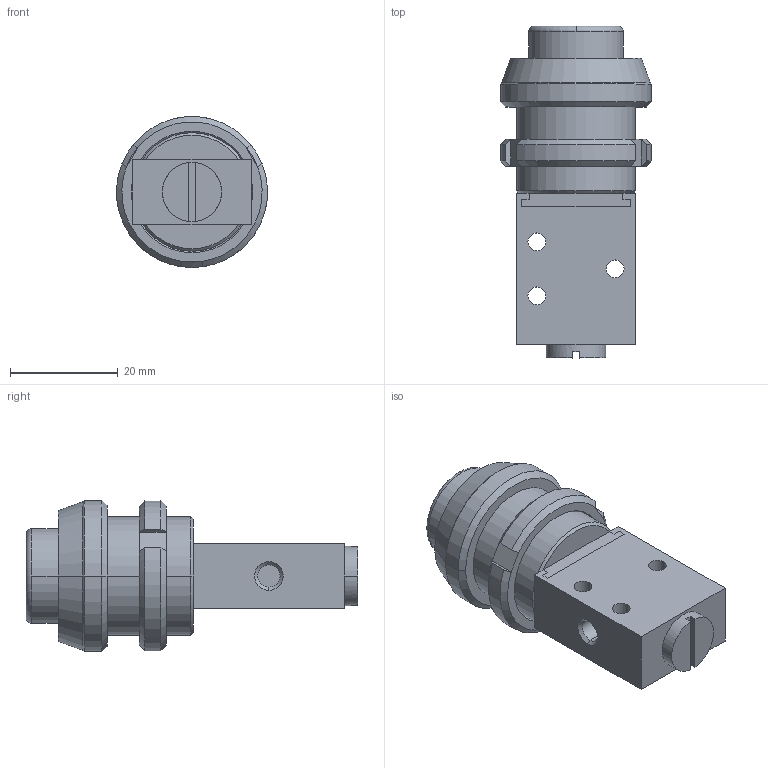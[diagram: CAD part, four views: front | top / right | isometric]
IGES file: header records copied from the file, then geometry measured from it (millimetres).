
Global section: file name: No Iges File Name specified; native system: AutoDesk Inventor R12.0; preprocessor: AutoDesk Inventor Iges Exporter R12.0; date: 20080225.141232; units: millimetre
Bounding box: 28 x 61.5 x 28 mm (x, y, z)
Volume: 20850.3 mm3; surface area: 7683.7 mm2
Topology: 3 solids, 3 shells, 104 faces, 251 edges, 159 vertices
Faces by surface type: plane 50, bspline 19, cone 14, cylinder 11, revolution 8, torus 2
